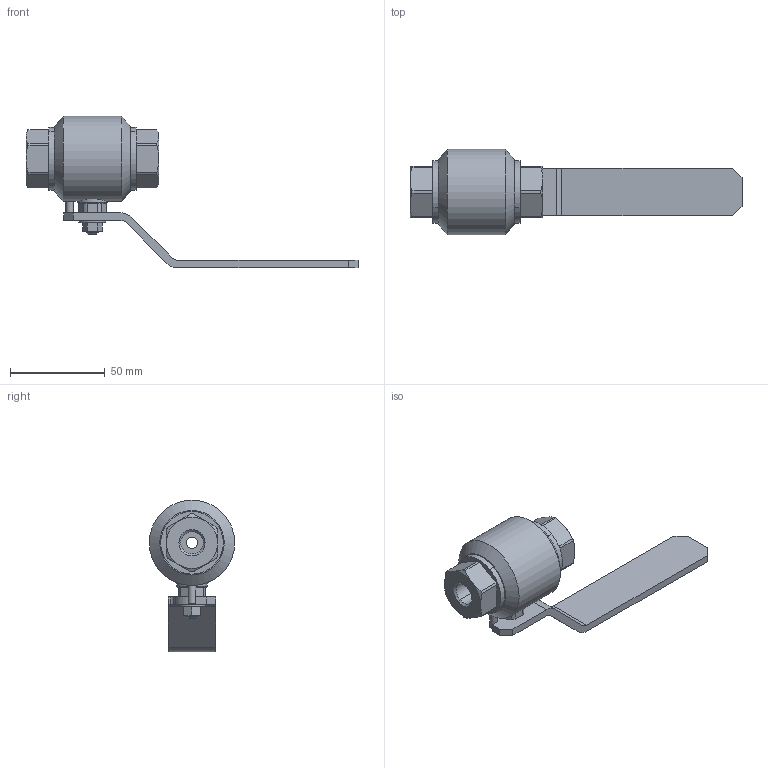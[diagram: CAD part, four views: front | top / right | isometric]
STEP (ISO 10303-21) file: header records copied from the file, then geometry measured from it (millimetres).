
FILE_DESCRIPTION(('STEP AP203'), '1');
FILE_NAME('ZARDP 006.025.10.P.stp', '2013-12-05T08:02:51', ('User'), ('Computer'), 'ASCON STEP Converter 1.3', 'Kompas 3D', '');
FILE_SCHEMA(('CONFIG_CONTROL_DESIGN','SUPPORT_RESOURCE_SCHEMA'));
Length unit declared in the file: millimetre
Products named in the file (1): 2
Bounding box: 175 x 45 x 80 mm (x, y, z)
Volume: 85162 mm3; surface area: 25636 mm2
Topology: 1 solids, 3 shells, 185 faces, 444 edges, 274 vertices
Faces by surface type: plane 96, cylinder 52, cone 36, bspline 1
Full cylindrical faces by diameter (mm): 4 x2, 6 x2, 8.673 x1, 9 x1, 10 x1, 10.1 x1, 14.2 x1, 15.8 x1, 16 x3, 25.4 x1, 45 x1
Entity records: 7063 total; most frequent: CARTESIAN_POINT 2623, DIRECTION 937, ORIENTED_EDGE 886, EDGE_CURVE 443, AXIS2_PLACEMENT_3D 358, VERTEX_POINT 274, LINE 221, VECTOR 221
